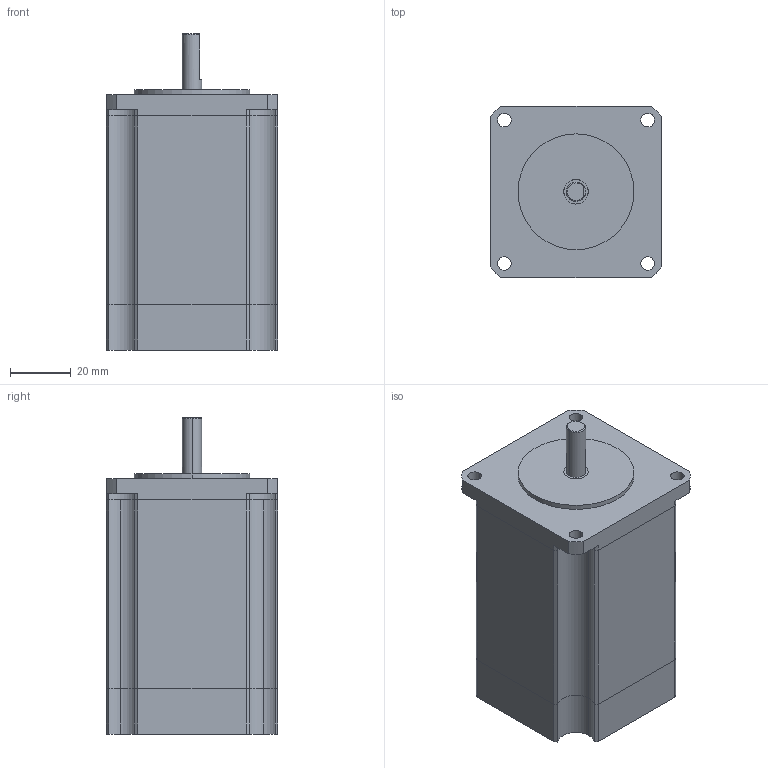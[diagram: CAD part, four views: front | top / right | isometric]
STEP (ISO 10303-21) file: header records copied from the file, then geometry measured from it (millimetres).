
FILE_DESCRIPTION (( 'STEP AP203' ), '1' );
FILE_NAME ('TS3653N4E12.STEP', '2015-07-14T07:35:43', ( 'hoho' ), ( '' ), 'SwSTEP 2.0', 'SolidWorks 2013', '' );
FILE_SCHEMA (( 'CONFIG_CONTROL_DESIGN' ));
Length unit declared in the file: millimetre
Products named in the file (5): TS3690N2E6-馬達前蓋; TS3653N4E12; TS3690N2E6-馬達後蓋; TS3653N4E12-馬達本體; TS3690N2E6-馬達出軸
Assembly tree (4 placements, depth 2):
  TS3653N4E12
    TS3690N2E6-馬達前蓋
    TS3690N2E6-馬達後蓋
    TS3690N2E6-馬達出軸
    TS3653N4E12-馬達本體
Bounding box: 56.4 x 56.4 x 104 mm (x, y, z)
Volume: 236995.3 mm3; surface area: 37230.5 mm2
Topology: 4 solids, 4 shells, 91 faces, 243 edges, 162 vertices
Faces by surface type: cylinder 62, plane 28, torus 1
Entity records: 3457 total; most frequent: DIRECTION 564, CARTESIAN_POINT 517, ORIENTED_EDGE 486, EDGE_CURVE 243, AXIS2_PLACEMENT_3D 225, VERTEX_POINT 162, CIRCLE 127, LINE 114
